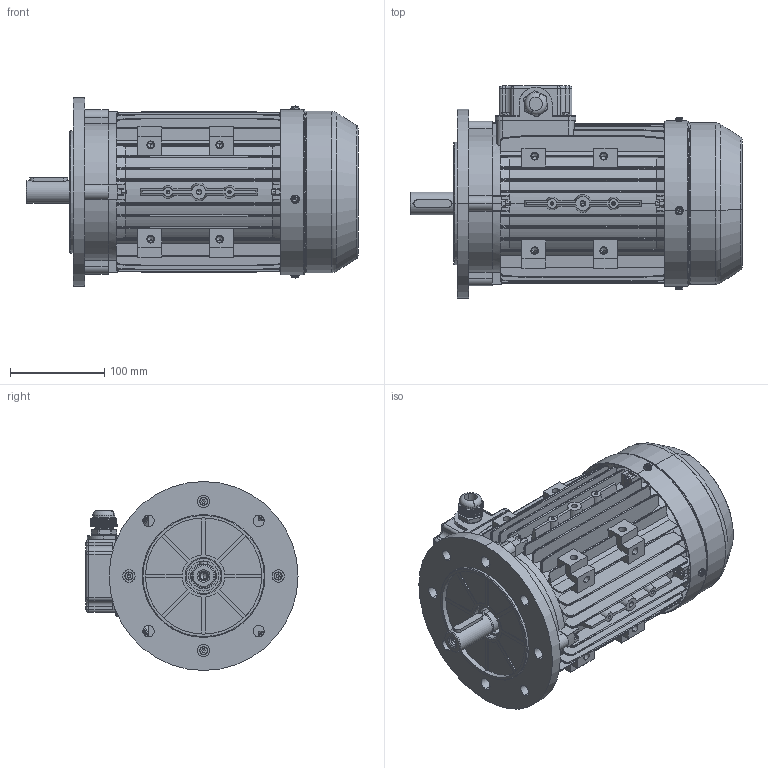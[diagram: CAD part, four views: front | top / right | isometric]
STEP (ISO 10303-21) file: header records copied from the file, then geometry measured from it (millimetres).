
FILE_DESCRIPTION (( 'STEP AP203' ), '1' );
FILE_NAME ('MSL90LX assembly B5.STEP', '2017-11-26T09:42:51', ( 'user' ), ( 'china' ), 'SwSTEP 2.0', 'SolidWorks 2016', '' );
FILE_SCHEMA (( 'CONFIG_CONTROL_DESIGN' ));
Length unit declared in the file: millimetre
Products named in the file (15): M90-Shaft drive end; MSL90LX assembly B5; M90傷裔B5; M90傷裔B3_Post; GB-T 70.1-2000 M5_30; MSL80-90堤盄碟_MSL80-90; GB-T 5780-2000 M5_030; MSL80-90堤盄碟蚾饜; MS90 綴裔瑞欶郪磁; M20 cable gland; GB-T 29.2-1988 M4鞠褒坋趼湍菜_05; GB-T 29.2-1988 M4鞠褒坋趼湍菜_08; M90儂褲_L; GB-T 41-2000 M5; M90瑞欶_082
Assembly tree (33 placements, depth 3):
  MSL90LX assembly B5
    M90儂褲_L
    M90-Shaft drive end
    MS90 綴裔瑞欶郪磁
      M90傷裔B3_Post
      M90瑞欶_082
      GB-T 29.2-1988 M4鞠褒坋趼湍菜_08  x4
    GB-T 41-2000 M5  x8
    GB-T 70.1-2000 M5_30  x4
    M90傷裔B5
    GB-T 5780-2000 M5_030  x4
    MSL80-90堤盄碟蚾饜
      MSL80-90堤盄碟_MSL80-90
      GB-T 29.2-1988 M4鞠褒坋趼湍菜_05  x4
      M20 cable gland
Bounding box: 351.5 x 224.5 x 200 mm (x, y, z)
Volume: 1239647.9 mm3; surface area: 750672.7 mm2
Topology: 31 solids, 31 shells, 3865 faces, 9700 edges, 5949 vertices
Faces by surface type: plane 1699, cylinder 1073, cone 600, bspline 366, torus 118, sphere 9
Entity records: 125544 total; most frequent: CARTESIAN_POINT 51686, ORIENTED_EDGE 15744, DIRECTION 13796, EDGE_CURVE 7872, VERTEX_POINT 4995, AXIS2_PLACEMENT_3D 4767, VECTOR 4262, LINE 4262
